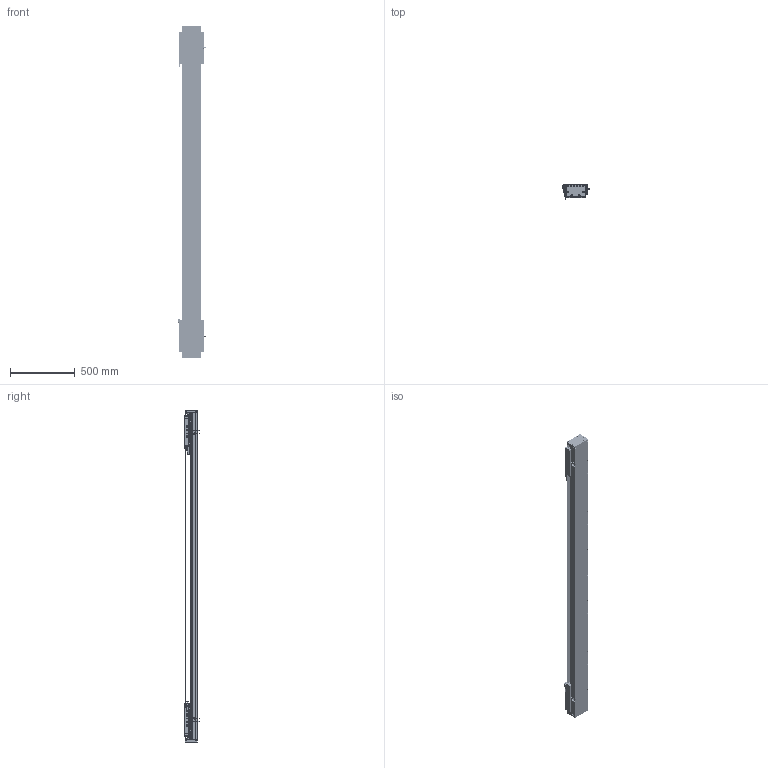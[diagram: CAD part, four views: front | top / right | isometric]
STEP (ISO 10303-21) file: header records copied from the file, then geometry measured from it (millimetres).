
FILE_DESCRIPTION (( 'STEP AP203' ), '1' );
FILE_NAME ('DA-C145-2-C3-T1940-C010-0.2 眻盄萇儂.STEP', '2025-08-13T10:25:00', ( '' ), ( '' ), 'SwSTEP 2.0', 'SolidWorks 2019', '' );
FILE_SCHEMA (( 'CONFIG_CONTROL_DESIGN' ));
Length unit declared in the file: millimetre
Products named in the file (38): 葩璃 XD-U-02L 棠掑喜^DA-C145-2-C3-T-C010-0.2; 葩璃 CU145 詩湍郪璃^DA-C145-2-C3-T-C010-0.2; 葩璃 PM-Y65^DA-C145-2-C3-T-C010-0.2; CU145-W 幗紩賑怢-1; 复件 DA145-GYP-00 光电感应片^DA-C145-2-C3-T-C010-0.2; 复件 DA145 钢带^复件 CU145 钢带组件_DA-C145-2-C3-T-C010-0.2; 复件 半圆头内六角螺钉 M3×6^CU145-W 滚珠滑台; CU145-W-00 珨极趙賑雄怢啣-1; 葩璃 DMA-010-0.2 黍杅芛^DA-C145-2-C3-T-C010-0.2; 复件 内六角平端紧定螺钉 GB.T77-2000 M5×10^CU145-W 滚珠滑台; 复件 纯铜油杯 6x6mm^CU145-W 滚珠滑台; 葩璃 DA145-C3-DP-A-00 菜えA^CU145-W 幗紩賑怢; DKW-KGZ-ZJ-00 中间光电开关支架; 葩璃 DA145-C3-DP-B-00 菜えB^CU145-W 幗紩賑怢; CU145-W-00 珨极趙賑雄怢啣; IU-CU145-L-00 菁釱(L2520); 葩璃 DA95-HXJ-00 遣喳砎蝶^DA-C145-2-C3-T-C010-0.2; 复件 DA95-HK-GT-00 滑块钢轨^CU145-W-00 一体化滑动台板; TAY01-M8; DA-C145-2-C3-T1940-C010-0.2 眻盄萇儂; 葩璃 鞠褒情蹟譫 M3^DA-C145-2-C3-T-C010-0.2; 葩璃 CKMA01-W060-TRL^DA-C145-2-C3-T-C010-0.2; 66245-CU145-HT-W-00 賑雄怢啣(3D芞祧)(00); IU-CU145-L 菁釱絳寢; DKW168-HXJ-ZJ-00 笢潔滅袉砎蝶; 复件 DA145-C3-DK-00 挡块^CU145-W 滚珠滑台; 复件 DA145-DG 钢带端盖^复件 CU145 钢带组件_DA-C145-2-C3-T-C010-0.2; CU145-W 幗紩賑怢; 葩璃 PM-T45^DA-C145-2-C3-T-C010-0.2; 复件 DA146 钢带垫块^复件 CU145 钢带组件_DA-C145-2-C3-T-C010-0.2; 葩璃 CKM03-W060-C1C2-TP-0.2^DA-C145-2-C3-T-C010-0.2; 葩璃 DA95-GT-T-00^IU-CU145-L 菁釱絳寢; 复件 DA145-C3-YB-A-00 压板A^CU145-W 滚珠滑台; 复件 DA95-MFP-01 密封片^CU145-W 滚珠滑台; 复件 DA145-C3-YB-B-00 压板B^CU145-W 滚珠滑台; DKW-GYP-ZJ-00 笢潔嫖萇覜茼え; 复件 DA146 钢带拉块^复件 CU145 钢带组件_DA-C145-2-C3-T-C010-0.2; 复件 DA95-DB-00  挡板^CU145-W 滚珠滑台
Assembly tree (180 placements, depth 4):
  DA-C145-2-C3-T1940-C010-0.2 眻盄萇儂
    IU-CU145-L 菁釱絳寢
      IU-CU145-L-00 菁釱(L2520)
      葩璃 DA95-GT-T-00^IU-CU145-L 菁釱絳寢  x4
    葩璃 CU145 詩湍郪璃^DA-C145-2-C3-T-C010-0.2
      复件 DA145-DG 钢带端盖^复件 CU145 钢带组件_DA-C145-2-C3-T-C010-0.2  x2
      复件 DA146 钢带拉块^复件 CU145 钢带组件_DA-C145-2-C3-T-C010-0.2  x2
      复件 DA146 钢带垫块^复件 CU145 钢带组件_DA-C145-2-C3-T-C010-0.2  x2
      复件 DA145 钢带^复件 CU145 钢带组件_DA-C145-2-C3-T-C010-0.2
    CU145-W 幗紩賑怢
      CU145-W-00 珨极趙賑雄怢啣
        66245-CU145-HT-W-00 賑雄怢啣(3D芞祧)(00)
        复件 DA95-HK-GT-00 滑块钢轨^CU145-W-00 一体化滑动台板  x8
      复件 DA95-MFP-01 密封片^CU145-W 滚珠滑台  x8
      复件 DA95-DB-00  挡板^CU145-W 滚珠滑台  x8
      复件 内六角平端紧定螺钉 GB.T77-2000 M5×10^CU145-W 滚珠滑台  x4
      复件 纯铜油杯 6x6mm^CU145-W 滚珠滑台  x4
      复件 半圆头内六角螺钉 M3×6^CU145-W 滚珠滑台  x16
      复件 DA145-C3-DK-00 挡块^CU145-W 滚珠滑台  x4
      葩璃 DA145-C3-DP-B-00 菜えB^CU145-W 幗紩賑怢  x2
      复件 DA145-C3-YB-B-00 压板B^CU145-W 滚珠滑台  x2
      葩璃 DA145-C3-DP-A-00 菜えA^CU145-W 幗紩賑怢  x3
      复件 DA145-C3-YB-A-00 压板A^CU145-W 滚珠滑台  x3
      TAY01-M8  x4
    CU145-W 幗紩賑怢-1
      CU145-W-00 珨极趙賑雄怢啣-1
        66245-CU145-HT-W-00 賑雄怢啣(3D芞祧)(00)
        复件 DA95-HK-GT-00 滑块钢轨^CU145-W-00 一体化滑动台板  x8
      复件 DA95-MFP-01 密封片^CU145-W 滚珠滑台  x8
      复件 DA95-DB-00  挡板^CU145-W 滚珠滑台  x8
      复件 内六角平端紧定螺钉 GB.T77-2000 M5×10^CU145-W 滚珠滑台  x4
      复件 纯铜油杯 6x6mm^CU145-W 滚珠滑台  x4
      复件 半圆头内六角螺钉 M3×6^CU145-W 滚珠滑台  x16
      复件 DA145-C3-DK-00 挡块^CU145-W 滚珠滑台  x4
      葩璃 DA145-C3-DP-B-00 菜えB^CU145-W 幗紩賑怢  x2
      复件 DA145-C3-YB-B-00 压板B^CU145-W 滚珠滑台  x2
      葩璃 DA145-C3-DP-A-00 菜えA^CU145-W 幗紩賑怢  x3
      复件 DA145-C3-YB-A-00 压板A^CU145-W 滚珠滑台  x3
      TAY01-M8  x4
    葩璃 CKMA01-W060-TRL^DA-C145-2-C3-T-C010-0.2
    葩璃 PM-T45^DA-C145-2-C3-T-C010-0.2  x4
    葩璃 XD-U-02L 棠掑喜^DA-C145-2-C3-T-C010-0.2
    葩璃 DA95-HXJ-00 遣喳砎蝶^DA-C145-2-C3-T-C010-0.2  x4
    葩璃 CKM03-W060-C1C2-TP-0.2^DA-C145-2-C3-T-C010-0.2  x2
    葩璃 DMA-010-0.2 黍杅芛^DA-C145-2-C3-T-C010-0.2  x2
    复件 DA145-GYP-00 光电感应片^DA-C145-2-C3-T-C010-0.2  x2
    DKW-GYP-ZJ-00 笢潔嫖萇覜茼え
    DKW-KGZ-ZJ-00 中间光电开关支架
    葩璃 PM-Y65^DA-C145-2-C3-T-C010-0.2
    葩璃 鞠褒情蹟譫 M3^DA-C145-2-C3-T-C010-0.2  x8
    DKW168-HXJ-ZJ-00 笢潔滅袉砎蝶
Bounding box: 213.7 x 108.45 x 2556 mm (x, y, z)
Volume: 14025583.8 mm3; surface area: 4420766.5 mm2
Topology: 175 solids, 239 shells, 7542 faces, 20373 edges, 12601 vertices
Faces by surface type: cylinder 3253, plane 2949, cone 1184, torus 140, sphere 8, bspline 8
Entity records: 138844 total; most frequent: CARTESIAN_POINT 39608, ORIENTED_EDGE 19432, DIRECTION 18629, EDGE_CURVE 9716, AXIS2_PLACEMENT_3D 6853, VERTEX_POINT 6300, LINE 4923, VECTOR 4923
